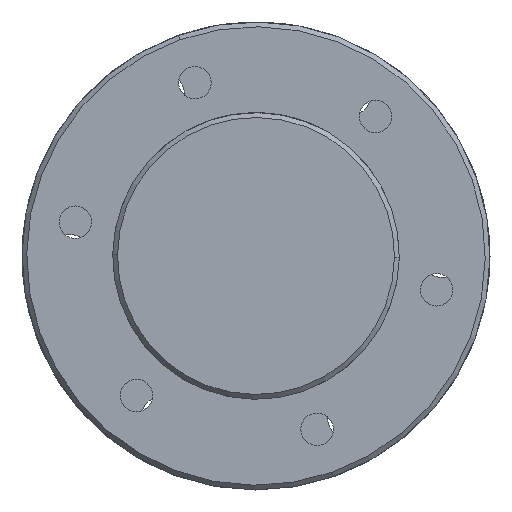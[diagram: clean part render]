
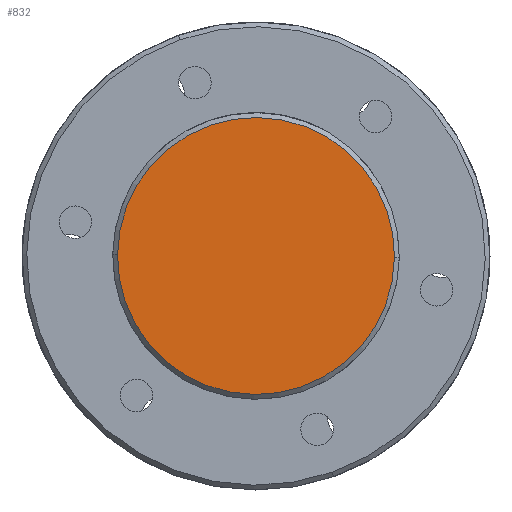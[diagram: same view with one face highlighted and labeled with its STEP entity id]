
A CAD part, left-side view. The second image highlights one B-rep face of the part: STEP entity #832.
In plain terms, the highlighted planar face has unit normal (-1, 0, 0).
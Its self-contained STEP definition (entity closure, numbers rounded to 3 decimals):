
#832 = ADVANCED_FACE ( 'NONE', ( #19508 ), #6372, .F. ) ;
#1517 = CARTESIAN_POINT ( 'NONE',  ( 0., 0., 0. ) ) ;
#3090 = DIRECTION ( 'NONE',  ( 1., 0., 0. ) ) ;
#4566 = AXIS2_PLACEMENT_3D ( 'NONE', #12603, #3090, #13036 ) ;
#4728 = ORIENTED_EDGE ( 'NONE', *, *, #10037, .T. ) ;
#6231 = CARTESIAN_POINT ( 'NONE',  ( 0., 0., 29. ) ) ;
#6363 = AXIS2_PLACEMENT_3D ( 'NONE', #21457, #19818, #16109 ) ;
#6372 = PLANE ( 'NONE',  #4566 ) ;
#9120 = VERTEX_POINT ( 'NONE', #6231 ) ;
#9874 = CIRCLE ( 'NONE', #6363, 29. ) ;
#10037 = EDGE_CURVE ( 'NONE', #15140, #9120, #9874, .T. ) ;
#11256 = DIRECTION ( 'NONE',  ( 0., 0., -1. ) ) ;
#12603 = CARTESIAN_POINT ( 'NONE',  ( 0., 0., 0. ) ) ;
#13036 = DIRECTION ( 'NONE',  ( 0., 0., -1. ) ) ;
#13082 = DIRECTION ( 'NONE',  ( -1., 0., 0. ) ) ;
#14889 = AXIS2_PLACEMENT_3D ( 'NONE', #1517, #13082, #11256 ) ;
#15140 = VERTEX_POINT ( 'NONE', #17099 ) ;
#15859 = EDGE_LOOP ( 'NONE', ( #4728, #16877 ) ) ;
#15930 = EDGE_CURVE ( 'NONE', #9120, #15140, #21524, .T. ) ;
#16109 = DIRECTION ( 'NONE',  ( 0., 0., -1. ) ) ;
#16877 = ORIENTED_EDGE ( 'NONE', *, *, #15930, .T. ) ;
#17099 = CARTESIAN_POINT ( 'NONE',  ( 0., 0., -29. ) ) ;
#19508 = FACE_OUTER_BOUND ( 'NONE', #15859, .T. ) ;
#19818 = DIRECTION ( 'NONE',  ( -1., 0., 0. ) ) ;
#21457 = CARTESIAN_POINT ( 'NONE',  ( 0., 0., 0. ) ) ;
#21524 = CIRCLE ( 'NONE', #14889, 29. ) ;
